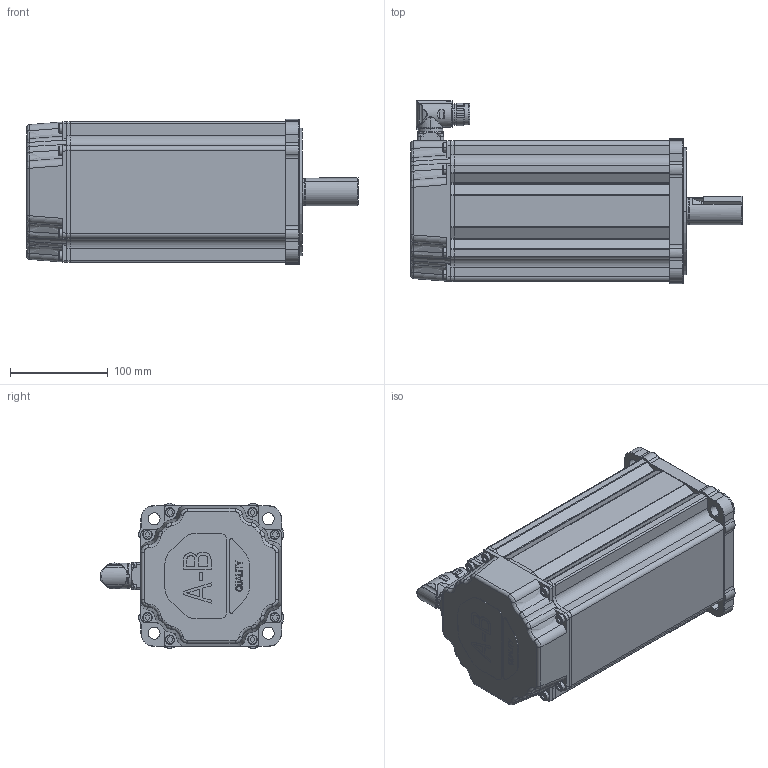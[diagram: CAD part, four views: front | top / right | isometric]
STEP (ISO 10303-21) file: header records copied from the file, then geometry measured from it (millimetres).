
FILE_DESCRIPTION (( 'STEP AP214' ), '1' );
FILE_NAME ('Rockwell Automation-$PARTNUMBER.STEP', '2014-07-25T14:04:29', ( 'Windows User' ), ( '' ), 'SwSTEP 2.0', 'SolidWorks 2014', '' );
FILE_SCHEMA (( 'AUTOMOTIVE_DESIGN' ));
Length unit declared in the file: inch
Products named in the file (4): Rockwell Automation-$PARTNUMBER_Rockwell Automation-VPF-x1652x-xJx4xx_Connector; Rockwell Automation-$PARTNUMBER_Rockwell Automation-VPF-x1652x-xJx4xx_VPF-165-Shaft_1652-SHAFT-KEYED-BRAKE; Rockwell Automation-$PARTNUMBER_Rockwell Automation-VPF-x1652x-xJx4xx_VPF-165-Body_1652-Brake; Rockwell Automation-$PARTNUMBER
Assembly tree (3 placements, depth 2):
  Rockwell Automation-$PARTNUMBER
    Rockwell Automation-$PARTNUMBER_Rockwell Automation-VPF-x1652x-xJx4xx_VPF-165-Body_1652-Brake
    Rockwell Automation-$PARTNUMBER_Rockwell Automation-VPF-x1652x-xJx4xx_VPF-165-Shaft_1652-SHAFT-KEYED-BRAKE
    Rockwell Automation-$PARTNUMBER_Rockwell Automation-VPF-x1652x-xJx4xx_Connector
Bounding box: 338.89 x 187.27 x 148.08 mm (x, y, z)
Volume: 2696621.8 mm3; surface area: 417447.6 mm2
Topology: 8 solids, 8 shells, 1194 faces, 2924 edges, 1850 vertices
Faces by surface type: plane 529, cylinder 366, cone 123, bspline 122, torus 36, sphere 18
Entity records: 55390 total; most frequent: CARTESIAN_POINT 12482, ORIENTED_EDGE 5828, DIRECTION 5699, EDGE_CURVE 2914, AXIS2_PLACEMENT_3D 2040, VERTEX_POINT 1850, VECTOR 1619, LINE 1619
